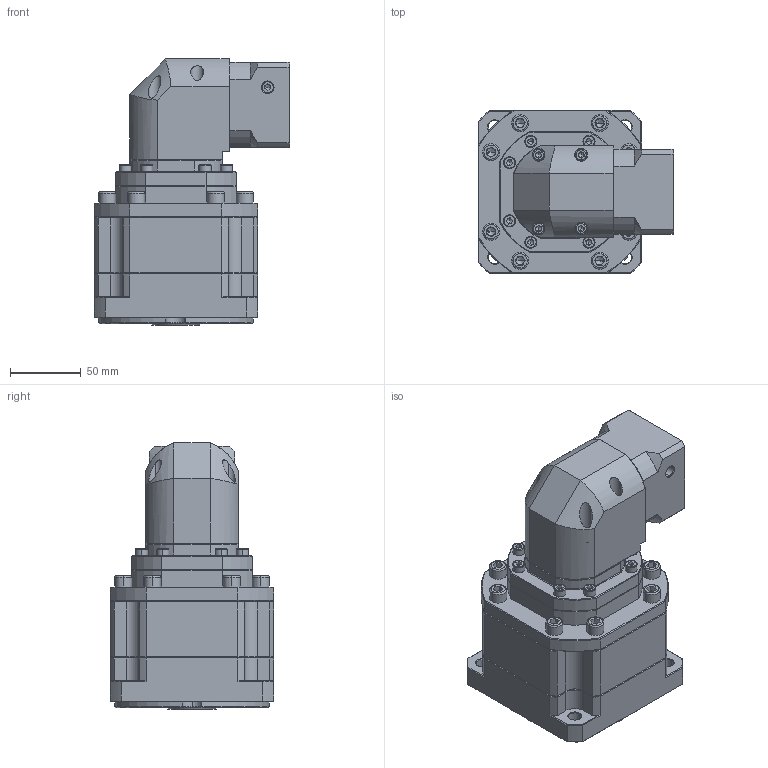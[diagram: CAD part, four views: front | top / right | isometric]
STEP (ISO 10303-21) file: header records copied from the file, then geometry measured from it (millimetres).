
FILE_DESCRIPTION (( 'STEP AP214' ), '1' );
FILE_NAME ('ZBR115A-K25-L3-P2-11-50-70-M5.step', '2023-08-26T14:08:20', ( '' ), ( '' ), 'SwSTEP 2.0', 'SolidWorks 2016', '' );
FILE_SCHEMA (( 'AUTOMOTIVE_DESIGN' ));
Length unit declared in the file: millimetre
Products named in the file (1): ZBR115A-K25-L3-P2-11-50-70-M5
Bounding box: 137.7 x 115 x 187.5 mm (x, y, z)
Volume: 1507542.2 mm3; surface area: 142988.9 mm2
Topology: 6 solids, 6 shells, 2581 faces, 6805 edges, 4344 vertices
Faces by surface type: plane 1292, cylinder 452, bspline 434, cone 383, torus 20
Entity records: 131358 total; most frequent: CARTESIAN_POINT 42439, ORIENTED_EDGE 13490, DIRECTION 11034, EDGE_CURVE 6745, VERTEX_POINT 4344, LINE 4312, VECTOR 4312, AXIS2_PLACEMENT_3D 3361
